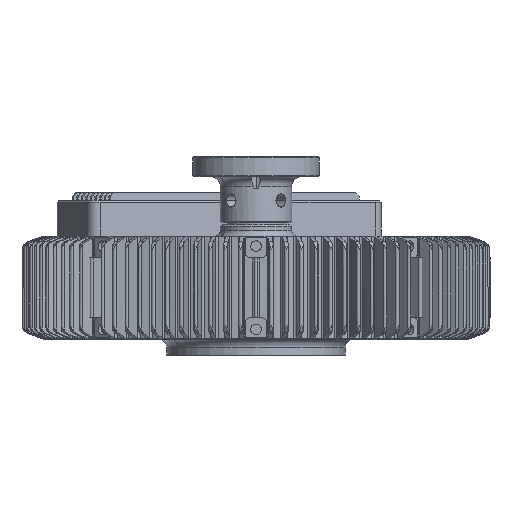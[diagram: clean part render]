
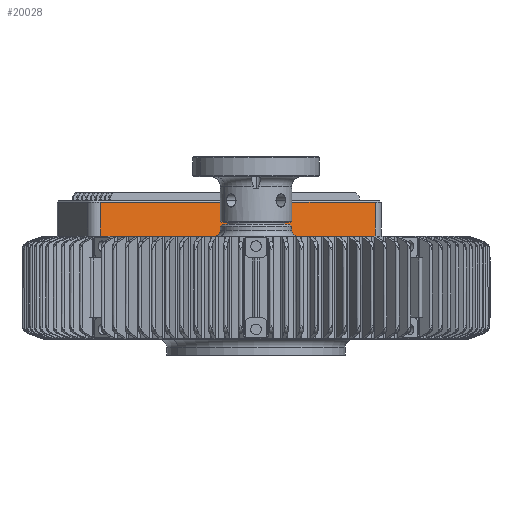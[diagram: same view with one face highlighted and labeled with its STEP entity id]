
A CAD part, front view. The second image highlights one B-rep face of the part: STEP entity #20028.
In plain terms, the highlighted planar face has unit normal (0.383, -0.924, 0).
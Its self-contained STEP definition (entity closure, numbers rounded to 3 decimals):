
#3397 = EDGE_CURVE ( 'NONE', #57104, #28151, #54408, .T. ) ;
#4375 = LINE ( 'NONE', #42261, #58553 ) ;
#5864 = VERTEX_POINT ( 'NONE', #15242 ) ;
#10906 = DIRECTION ( 'NONE',  ( 0.924, 0.383, 0. ) ) ;
#15242 = CARTESIAN_POINT ( 'NONE',  ( -39.238, -3.264, 17. ) ) ;
#15295 = DIRECTION ( 'NONE',  ( 0., 0., -1. ) ) ;
#16465 = CARTESIAN_POINT ( 'NONE',  ( 30.053, 25.437, 21.25 ) ) ;
#17380 = CARTESIAN_POINT ( 'NONE',  ( -39.238, -3.264, 25.5 ) ) ;
#19486 = EDGE_CURVE ( 'NONE', #58662, #28151, #36207, .T. ) ;
#19591 = LINE ( 'NONE', #38668, #55684 ) ;
#20028 = ADVANCED_FACE ( 'NONE', ( #39110 ), #29730, .T. ) ;
#20487 = VECTOR ( 'NONE', #44966, 1000. ) ;
#21856 = EDGE_CURVE ( 'NONE', #5864, #58662, #4375, .T. ) ;
#23768 = ORIENTED_EDGE ( 'NONE', *, *, #21856, .T. ) ;
#23789 = EDGE_LOOP ( 'NONE', ( #54801, #23768, #31049, #50074 ) ) ;
#28151 = VERTEX_POINT ( 'NONE', #49689 ) ;
#29730 = PLANE ( 'NONE',  #39284 ) ;
#31049 = ORIENTED_EDGE ( 'NONE', *, *, #19486, .T. ) ;
#34275 = EDGE_CURVE ( 'NONE', #5864, #57104, #19591, .T. ) ;
#36207 = LINE ( 'NONE', #16465, #20487 ) ;
#37879 = DIRECTION ( 'NONE',  ( 0.924, 0.383, 0. ) ) ;
#38067 = DIRECTION ( 'NONE',  ( 0., 0., 1. ) ) ;
#38668 = CARTESIAN_POINT ( 'NONE',  ( -39.238, -3.264, 22.5 ) ) ;
#39110 = FACE_OUTER_BOUND ( 'NONE', #23789, .T. ) ;
#39284 = AXIS2_PLACEMENT_3D ( 'NONE', #44123, #58182, #15295 ) ;
#42261 = CARTESIAN_POINT ( 'NONE',  ( -4.592, 11.087, 17. ) ) ;
#44123 = CARTESIAN_POINT ( 'NONE',  ( -39.238, -3.264, 17. ) ) ;
#44966 = DIRECTION ( 'NONE',  ( 0., 0., 1. ) ) ;
#45034 = CARTESIAN_POINT ( 'NONE',  ( -9.102, 9.218, 25.5 ) ) ;
#47584 = CARTESIAN_POINT ( 'NONE',  ( 30.053, 25.437, 17. ) ) ;
#49176 = VECTOR ( 'NONE', #10906, 1000. ) ;
#49689 = CARTESIAN_POINT ( 'NONE',  ( 30.053, 25.437, 25.5 ) ) ;
#50074 = ORIENTED_EDGE ( 'NONE', *, *, #3397, .F. ) ;
#54408 = LINE ( 'NONE', #45034, #49176 ) ;
#54801 = ORIENTED_EDGE ( 'NONE', *, *, #34275, .F. ) ;
#55684 = VECTOR ( 'NONE', #38067, 1000. ) ;
#57104 = VERTEX_POINT ( 'NONE', #17380 ) ;
#58182 = DIRECTION ( 'NONE',  ( 0.383, -0.924, 0. ) ) ;
#58553 = VECTOR ( 'NONE', #37879, 1000. ) ;
#58662 = VERTEX_POINT ( 'NONE', #47584 ) ;
